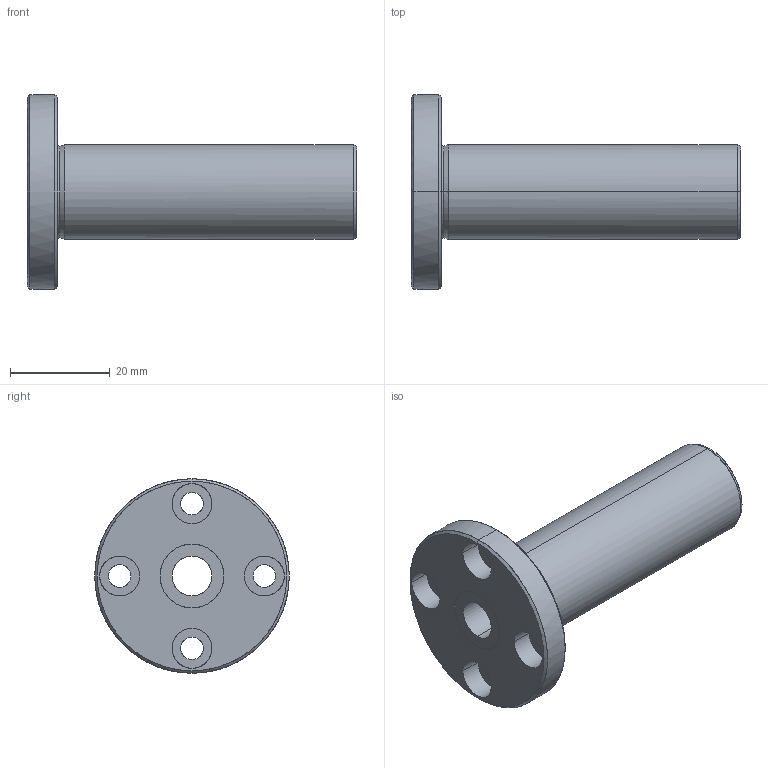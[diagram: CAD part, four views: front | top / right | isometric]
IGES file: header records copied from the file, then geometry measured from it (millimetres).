
Global section: file name: No Iges File Name specified; native system: AutoDesk Inventor R10; preprocessor: AutoDesk Inventor Iges Exporter R10; author: No Author specified; organization: No Organization specified; date: 20101211.161521; units: millimetre
Bounding box: 66 x 39 x 39 mm (x, y, z)
Surface area: 8594.5 mm2 (no closed solid volume)
Topology: 0 solids, 0 shells, 45 faces, 320 edges, 320 vertices
Faces by surface type: bspline 45
